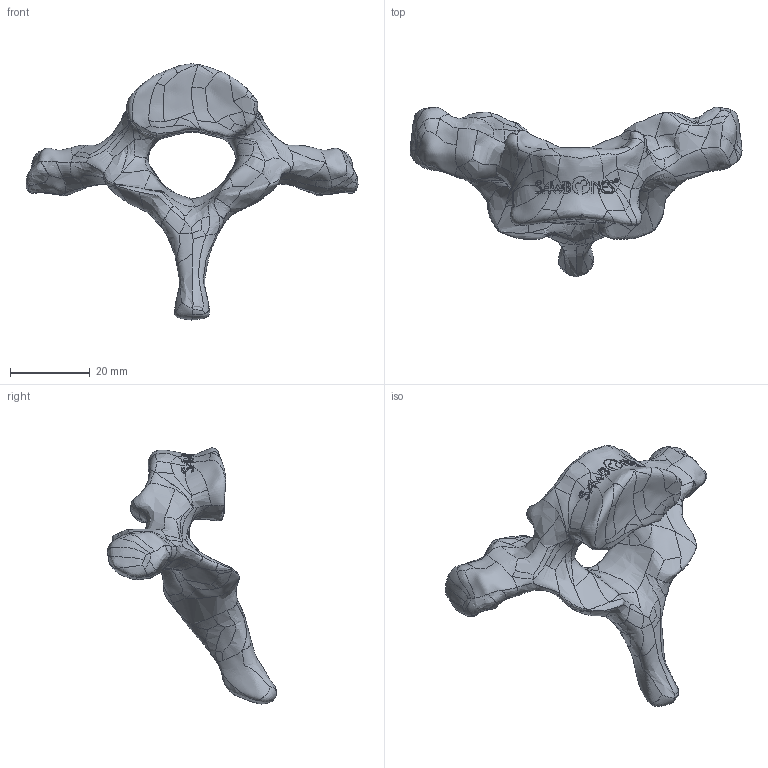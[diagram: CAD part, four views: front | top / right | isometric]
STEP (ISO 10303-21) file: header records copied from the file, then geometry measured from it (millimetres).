
FILE_DESCRIPTION (( 'STEP AP203' ), '1' );
FILE_NAME ('1379-60-1.STEP', '2026-07-28T19:16:22', ( '' ), ( '' ), 'SwSTEP 2.0', 'SolidWorks 2024', '' );
FILE_SCHEMA (( 'CONFIG_CONTROL_DESIGN' ));
Products named in the file (1): 1379-60-1
Bounding box: 83.13 x 42.4 x 64.11 mm (x, y, z)
Volume: 21344.9 mm3; surface area: 7876.5 mm2
Topology: 1 solids, 1 shells, 575 faces, 1498 edges, 930 vertices
Faces by surface type: bspline 575
Entity records: 924802 total; most frequent: CARTESIAN_POINT 915482, ORIENTED_EDGE 2996, EDGE_CURVE 1498, B_SPLINE_CURVE_WITH_KNOTS 1498, VERTEX_POINT 930, EDGE_LOOP 582, FACE_OUTER_BOUND 575, B_SPLINE_SURFACE_WITH_KNOTS 575
